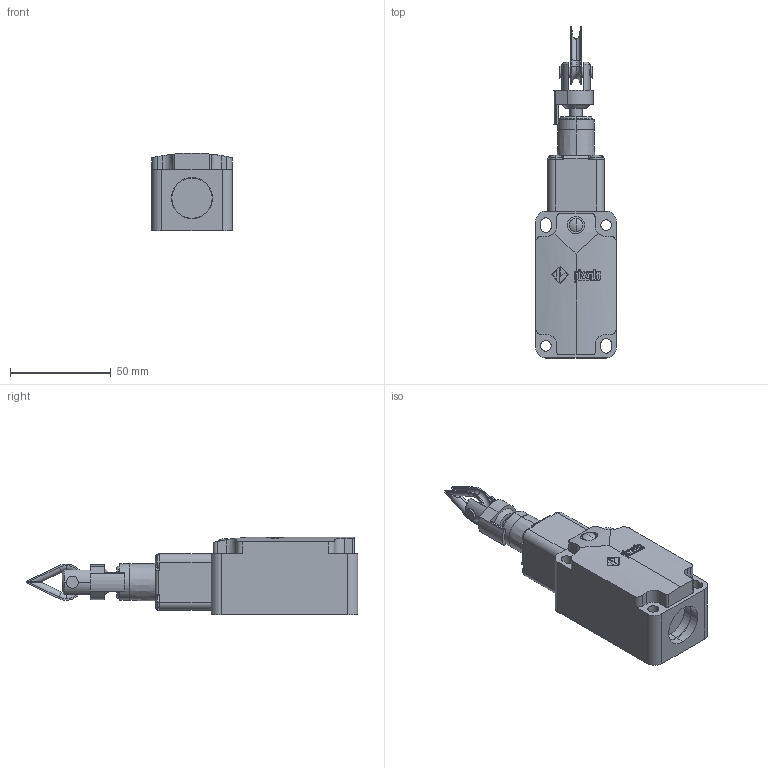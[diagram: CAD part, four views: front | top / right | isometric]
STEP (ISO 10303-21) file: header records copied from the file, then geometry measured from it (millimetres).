
FILE_DESCRIPTION (( 'STEP AP214' ), '1' );
FILE_NAME ('ZF_STEP_FP_x79.step', '2015-05-14T14:39:33', ( 'utente' ), ( 'Microsoft' ), 'SwSTEP 2.0', 'SolidWorks 2014', '' );
FILE_SCHEMA (( 'AUTOMOTIVE_DESIGN' ));
Length unit declared in the file: millimetre
Products named in the file (6): ZF_STEP_VF_T79; Pizzato_Redance_T78-83-84; Pizzato_Tirante_T78_T79; Pizzato_Supporto_T78-T79_T79; Pizzato_Custodia_FP; ZF_STEP_FP_x79
Assembly tree (5 placements, depth 3):
  ZF_STEP_FP_x79
    Pizzato_Custodia_FP
    ZF_STEP_VF_T79
      Pizzato_Supporto_T78-T79_T79
      Pizzato_Tirante_T78_T79
      Pizzato_Redance_T78-83-84
Bounding box: 40 x 165 x 38.5 mm (x, y, z)
Volume: 128848.4 mm3; surface area: 27384.8 mm2
Topology: 4 solids, 4 shells, 496 faces, 1299 edges, 861 vertices
Faces by surface type: plane 254, cylinder 114, bspline 97, torus 14, sphere 10, cone 7
Entity records: 20668 total; most frequent: CARTESIAN_POINT 8739, ORIENTED_EDGE 2598, DIRECTION 2133, EDGE_CURVE 1299, VERTEX_POINT 861, VECTOR 737, LINE 737, AXIS2_PLACEMENT_3D 698
